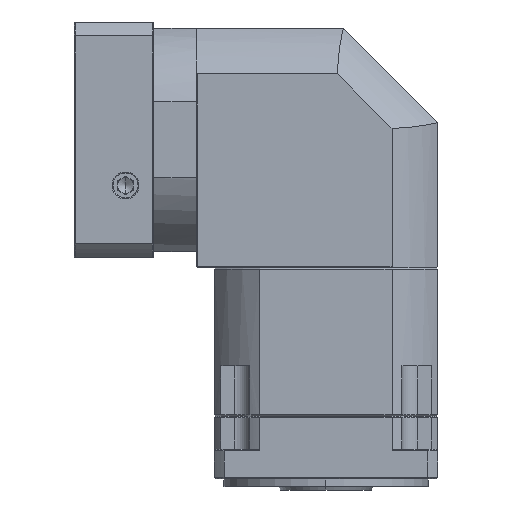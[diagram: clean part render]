
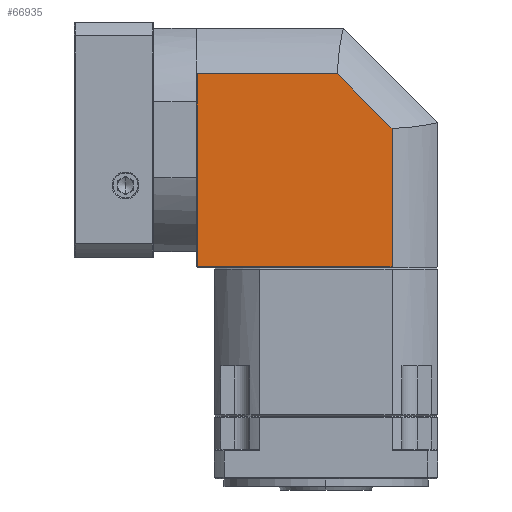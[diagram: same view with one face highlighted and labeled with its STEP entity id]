
A CAD part, left-side view. The second image highlights one B-rep face of the part: STEP entity #66935.
In plain terms, the highlighted planar face has unit normal (-1, 0, 0).
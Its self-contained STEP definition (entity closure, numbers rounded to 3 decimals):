
#4363 = CARTESIAN_POINT ( 'NONE',  ( -31.508, -56.638, 390.234 ) ) ;
#9263 = CARTESIAN_POINT ( 'NONE',  ( -31.508, -91.31, 355.562 ) ) ;
#10851 = EDGE_CURVE ( 'NONE', #160629, #54108, #71015, .T. ) ;
#17407 = VERTEX_POINT ( 'NONE', #9263 ) ;
#35827 = DIRECTION ( 'NONE',  ( -1., 0., 0. ) ) ;
#36170 = CARTESIAN_POINT ( 'NONE',  ( -31.508, -91.31, 267.52 ) ) ;
#38608 = VECTOR ( 'NONE', #54936, 1000. ) ;
#41734 = CARTESIAN_POINT ( 'NONE',  ( -31.508, -91.31, 355.562 ) ) ;
#43829 = ORIENTED_EDGE ( 'NONE', *, *, #139217, .T. ) ;
#45555 = ORIENTED_EDGE ( 'NONE', *, *, #93964, .T. ) ;
#50626 = ORIENTED_EDGE ( 'NONE', *, *, #98931, .T. ) ;
#50744 = FACE_OUTER_BOUND ( 'NONE', #88321, .T. ) ;
#54108 = VERTEX_POINT ( 'NONE', #168100 ) ;
#54792 = VECTOR ( 'NONE', #118775, 1000. ) ;
#54936 = DIRECTION ( 'NONE',  ( 0., 0.707, 0.707 ) ) ;
#60194 = CARTESIAN_POINT ( 'NONE',  ( -31.508, -43.546, 390.234 ) ) ;
#60974 = CARTESIAN_POINT ( 'NONE',  ( -31.508, -43.546, 343.12 ) ) ;
#62104 = DIRECTION ( 'NONE',  ( 0., 0., -1. ) ) ;
#62675 = PLANE ( 'NONE',  #124279 ) ;
#63421 = VECTOR ( 'NONE', #164290, 1000. ) ;
#66935 = ADVANCED_FACE ( 'NONE', ( #50744 ), #62675, .T. ) ;
#69755 = VECTOR ( 'NONE', #73039, 1000. ) ;
#71015 = LINE ( 'NONE', #60194, #158987 ) ;
#72468 = CARTESIAN_POINT ( 'NONE',  ( -31.508, 32.704, 343.12 ) ) ;
#73039 = DIRECTION ( 'NONE',  ( 0., 0., -1. ) ) ;
#83964 = LINE ( 'NONE', #72468, #69755 ) ;
#88321 = EDGE_LOOP ( 'NONE', ( #43829, #97120, #155896, #45555, #50626 ) ) ;
#93964 = EDGE_CURVE ( 'NONE', #165699, #123921, #151371, .T. ) ;
#94753 = CARTESIAN_POINT ( 'NONE',  ( -31.508, -91.31, 343.12 ) ) ;
#97120 = ORIENTED_EDGE ( 'NONE', *, *, #10851, .T. ) ;
#98931 = EDGE_CURVE ( 'NONE', #123921, #17407, #116084, .T. ) ;
#110083 = LINE ( 'NONE', #41734, #38608 ) ;
#116084 = LINE ( 'NONE', #94753, #54792 ) ;
#118775 = DIRECTION ( 'NONE',  ( 0., 0., 1. ) ) ;
#123921 = VERTEX_POINT ( 'NONE', #36170 ) ;
#124279 = AXIS2_PLACEMENT_3D ( 'NONE', #60974, #35827, #62104 ) ;
#125165 = EDGE_CURVE ( 'NONE', #54108, #165699, #83964, .T. ) ;
#125723 = CARTESIAN_POINT ( 'NONE',  ( -31.508, 32.704, 267.52 ) ) ;
#126490 = CARTESIAN_POINT ( 'NONE',  ( -31.508, -43.546, 267.52 ) ) ;
#139217 = EDGE_CURVE ( 'NONE', #17407, #160629, #110083, .T. ) ;
#151371 = LINE ( 'NONE', #126490, #63421 ) ;
#155896 = ORIENTED_EDGE ( 'NONE', *, *, #125165, .T. ) ;
#158987 = VECTOR ( 'NONE', #165380, 1000. ) ;
#160629 = VERTEX_POINT ( 'NONE', #4363 ) ;
#164290 = DIRECTION ( 'NONE',  ( 0., -1., 0. ) ) ;
#165380 = DIRECTION ( 'NONE',  ( 0., 1., 0. ) ) ;
#165699 = VERTEX_POINT ( 'NONE', #125723 ) ;
#168100 = CARTESIAN_POINT ( 'NONE',  ( -31.508, 32.704, 390.234 ) ) ;
